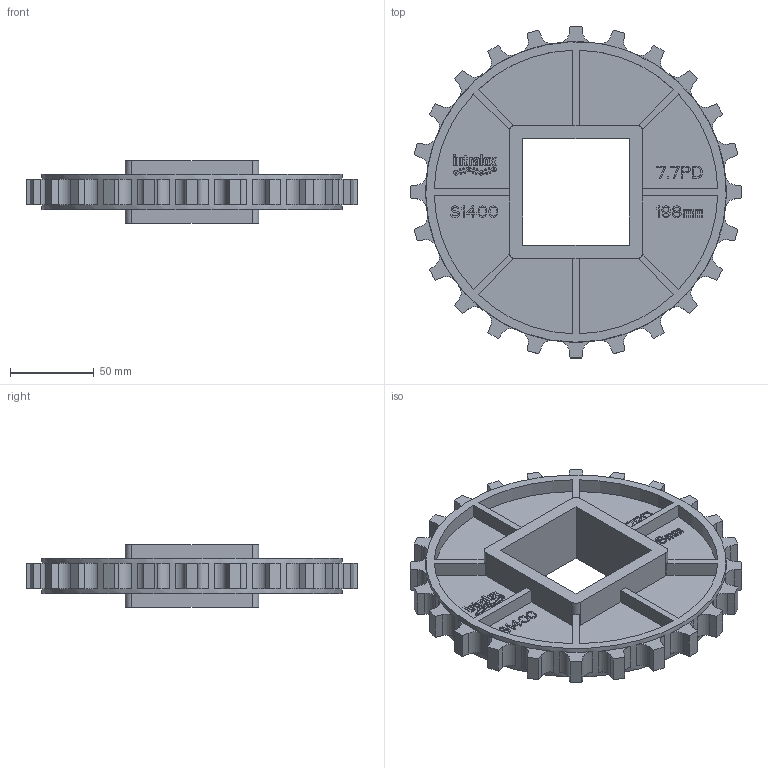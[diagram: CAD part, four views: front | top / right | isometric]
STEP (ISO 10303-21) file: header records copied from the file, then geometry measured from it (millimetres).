
FILE_DESCRIPTION((''),'2;1');
FILE_NAME('S1400_SPROCKET_77X25_60_SQ','2008-12-12T',('jmumphre'),(''),'PRO/ENGINEER BY PARAMETRIC TECHNOLOGY CORPORATION, 2008150','PRO/ENGINEER BY PARAMETRIC TECHNOLOGY CORPORATION, 2008150','');
FILE_SCHEMA(('CONFIG_CONTROL_DESIGN'));
Length unit declared in the file: inch
Products named in the file (1): S1400_SPROCKET_77X25_60_SQ
Bounding box: 198.42 x 198.42 x 37.59 mm (x, y, z)
Volume: 259739.4 mm3; surface area: 102533.2 mm2
Topology: 1 solids, 1 shells, 951 faces, 2652 edges, 1768 vertices
Faces by surface type: plane 773, cylinder 178
Entity records: 30310 total; most frequent: CARTESIAN_POINT 5371, ORIENTED_EDGE 5304, DIRECTION 4974, EDGE_CURVE 2652, VECTOR 2232, LINE 2232, VERTEX_POINT 1768, AXIS2_PLACEMENT_3D 1371
